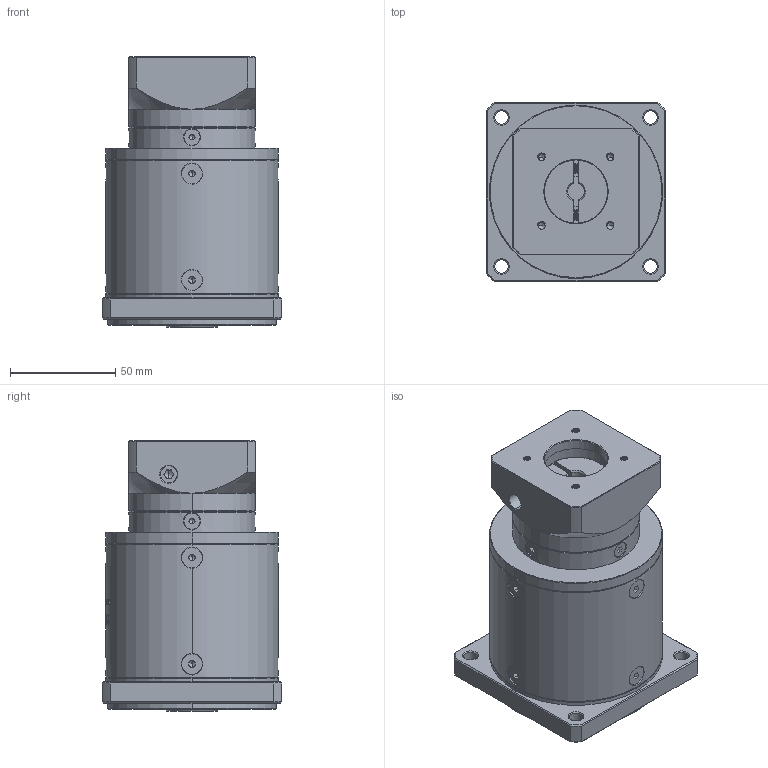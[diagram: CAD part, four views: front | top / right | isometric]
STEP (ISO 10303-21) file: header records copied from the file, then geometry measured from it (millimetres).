
FILE_DESCRIPTION (( 'STEP AP214' ), '1' );
FILE_NAME ('ZF80-K15-L3-8-30-46-M4.step', '2022-09-16T05:33:34', ( '' ), ( 'Microsoft' ), 'SwSTEP 2.0', 'SolidWorks 2016', '' );
FILE_SCHEMA (( 'AUTOMOTIVE_DESIGN' ));
Length unit declared in the file: millimetre
Products named in the file (1): ZF80-K15-L3-8-30-46-M4
Bounding box: 85 x 85 x 128.5 mm (x, y, z)
Volume: 563233.6 mm3; surface area: 71755.7 mm2
Topology: 18 solids, 18 shells, 1953 faces, 5120 edges, 3262 vertices
Faces by surface type: plane 941, cylinder 366, bspline 318, cone 314, torus 14
Entity records: 99296 total; most frequent: CARTESIAN_POINT 32914, ORIENTED_EDGE 10168, DIRECTION 8164, EDGE_CURVE 5084, VERTEX_POINT 3262, VECTOR 2758, LINE 2758, AXIS2_PLACEMENT_3D 2703
